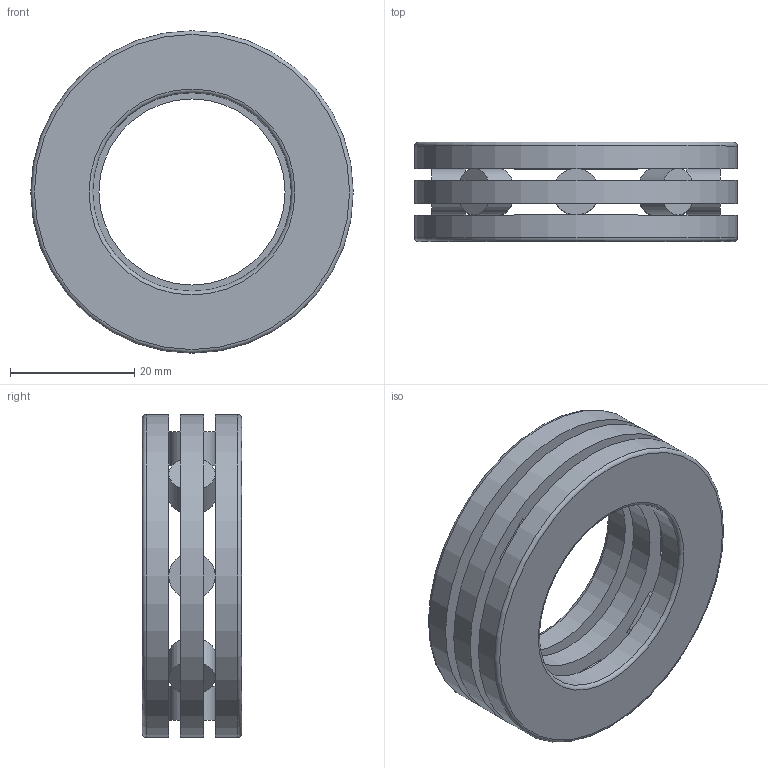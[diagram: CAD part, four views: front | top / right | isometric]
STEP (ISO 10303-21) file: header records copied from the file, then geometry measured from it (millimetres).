
FILE_DESCRIPTION(/* description */ (''),/* implementation_level */ '2;1');
FILE_NAME(/* name */ 'D:\moje\parametrické\812--\812--_\81206.stp',/* time_stamp */ '2016-08-16T14:38:08+02:00',/* author */ ('OUBALASKO'),/* organization */ (''),/* preprocessor_version */ 'ST-DEVELOPER v15.6',/* originating_system */ 'Autodesk Inventor 2015',/* authorisation */ '');
FILE_SCHEMA (('AUTOMOTIVE_DESIGN { 1 0 10303 214 3 1 1 }'));
Length unit declared in the file: millimetre
Products named in the file (6): GS81206; WS81206; 81206-cage; 81206-roller; K81206TNG; 81206
Assembly tree (12 placements, depth 3):
  81206
    GS81206
    WS81206
    K81206TNG
      81206-cage
      81206-roller  x8
Bounding box: 52 x 16 x 52 mm (x, y, z)
Volume: 17484.9 mm3; surface area: 13185.1 mm2
Topology: 11 solids, 11 shells, 72 faces, 146 edges, 96 vertices
Faces by surface type: plane 54, cylinder 14, torus 4
Full cylindrical faces by diameter (mm): 7.5 x8, 30 x2, 32 x1, 52 x3
Entity records: 1657 total; most frequent: DIRECTION 270, CARTESIAN_POINT 265, ORIENTED_EDGE 228, EDGE_CURVE 114, LINE 96, VECTOR 96, AXIS2_PLACEMENT_3D 87, EDGE_LOOP 84
